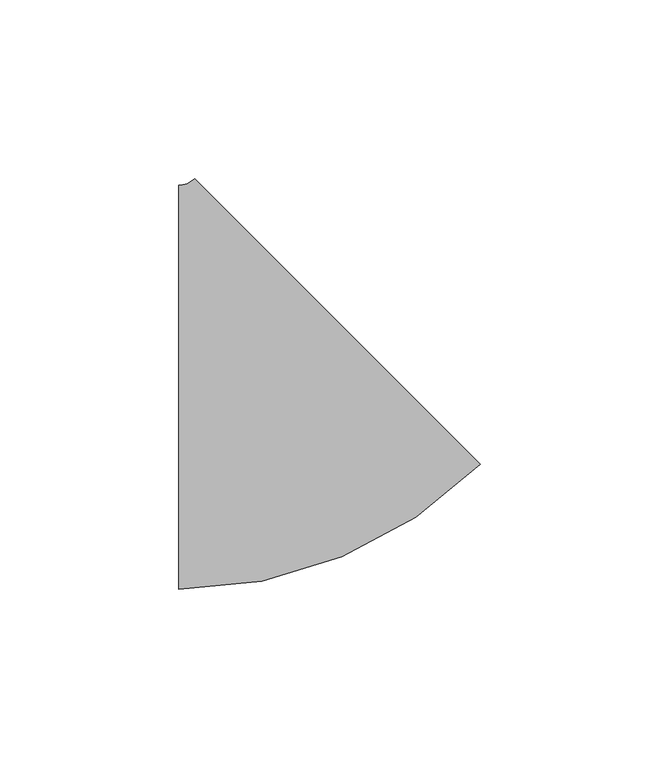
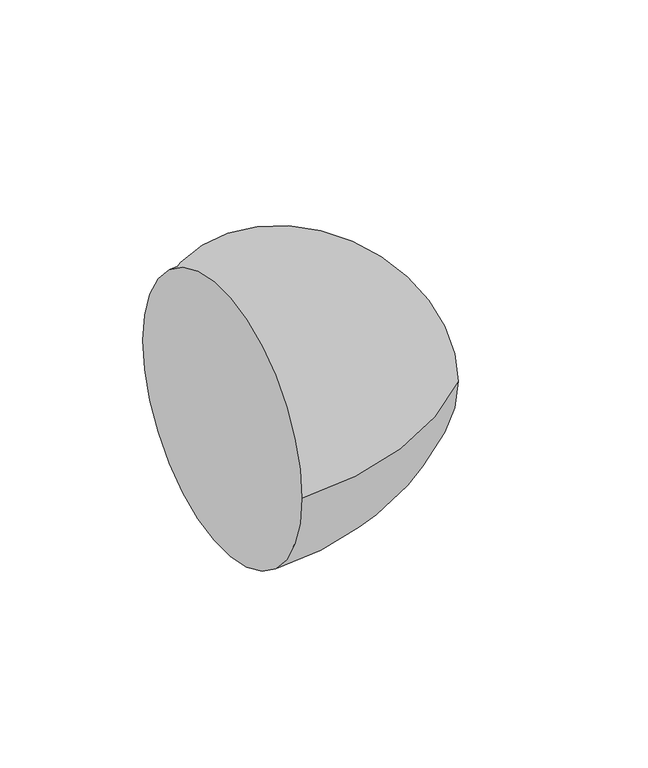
"""IFC4 building model written with IfcOpenShell, lengths in millimetres: pipe fitting geometry, M_Codo - Genérico : Estándar."""

from ifc_helpers import new_model, si_unit, point, frame, origin, place, context, project, spatial, circle_curve, ellipse_curve, trimmed, source, transform, mapped, element, save
from ifc_brep_helpers import plane_surface, revolved_surface, advanced_brep


def pipe_fitting_4f83d7fe(model_context):
    return source(origin(), model_context, "Body", "AdvancedBrep", [
        advanced_brep(
        [(-26.0703512, -56.5875, 0.0), (-26.0703512, 56.5875, 0.0), (58.4483867, -21.5776381, 0.0), (-21.5801276, 58.4474676, 0.0)],
        [
            (0, 1, circle_curve(frame((-26.0703512, 0.0, 0.0), z_axis=(-1.0, 0.0, 0.0), x_axis=(0.0, 1.0, 0.0)), 56.5875)),
            (1, 0, circle_curve(frame((-26.0703512, 0.0, 0.0), z_axis=(-1.0, 0.0, 0.0), x_axis=(0.0, 1.0, 0.0)), 56.5875)),
            (2, 3, circle_curve(frame((18.4341296, 18.4349147, 0.0), z_axis=(0.707091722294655, 0.7071218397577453, 0.0), x_axis=(-0.7071218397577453, 0.707091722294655, 0.0)), 56.5875)),
            (3, 2, circle_curve(frame((18.4341296, 18.4349147, 0.0), z_axis=(0.707091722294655, 0.7071218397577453, 0.0), x_axis=(-0.7071218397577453, 0.707091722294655, 0.0)), 56.5875)),
            (3, 1, circle_curve(frame((-26.0703512, 62.9375, 0.0), z_axis=(0.0, 0.0, -1.0), x_axis=(0.0, -1.0, 0.0)), 6.35)),
            (0, 2, circle_curve(frame((-26.0703512, 62.9375, 0.0), z_axis=(0.0, 0.0, 1.0), x_axis=(0.0, -1.0, 0.0)), 119.525)),
        ],
        [
            plane_surface(frame((-26.0703512, 0.0, 0.0), z_axis=(-1.0, 0.0, 0.0), x_axis=(0.0, 0.0, 1.0))),
            plane_surface(frame((18.4341296, 18.4349147, 0.0), z_axis=(0.7070917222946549, 0.7071218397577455, 0.0), x_axis=(0.0, 0.0, 1.0))),
            revolved_surface(trimmed(ellipse_curve(frame((-26.0703512, 0.0, 0.0), z_axis=(-1.0, 0.0, 0.0), x_axis=(0.0, 1.0, 0.0)), 56.5875, 56.5875), [point((-26.0703512, -56.5875, 0.0))], [point((-26.0703512, 56.5875, 0.0))], True, "CARTESIAN"), (-26.0703512, 62.9375, 0.0), (0.0, 0.0, 1.0)),
            revolved_surface(trimmed(ellipse_curve(frame((-26.0703512, 0.0, 0.0), z_axis=(-1.0, 0.0, 0.0), x_axis=(0.0, 1.0, 0.0)), 56.5875, 56.5875), [point((-26.0703512, 56.5875, 0.0))], [point((-26.0703512, -56.5875, 0.0))], True, "CARTESIAN"), (-26.0703512, 62.9375, 0.0), (0.0, 0.0, 1.0)),
        ],
        [
            (0, [[1, 2]]),
            (1, [[3, 4]]),
            (2, [[5, -1, 6, -4]]),
            (3, [[-6, -2, -5, -3]]),
        ],
    ),
    ])


if __name__ == "__main__":
    model = new_model("IFC4")
    model_context = context("Model", 3, world=origin())
    ifc_project = project(units=[si_unit("LENGTHUNIT", "METRE", prefix="MILLI")], contexts=[model_context])
    site = spatial("IfcSite", under=ifc_project)
    building = spatial("IfcBuilding", under=site)
    placement = place(None, origin())
    pipe_fitting_shape = pipe_fitting_4f83d7fe(model_context)
    element("IfcPipeFitting", 1, ObjectType="M_Codo - Genérico : Estándar", at=placement, inside=building, context=model_context, shape_type="MappedRepresentation", body=[
        mapped(pipe_fitting_shape, transform((0.0, 0.0, 0.0), x_axis=(1.0, 0.0, 0.0), y_axis=(0.0, 1.0, 0.0), z_axis=(0.0, 0.0, 1.0))),
    ])
    save(model, "model.ifc")
